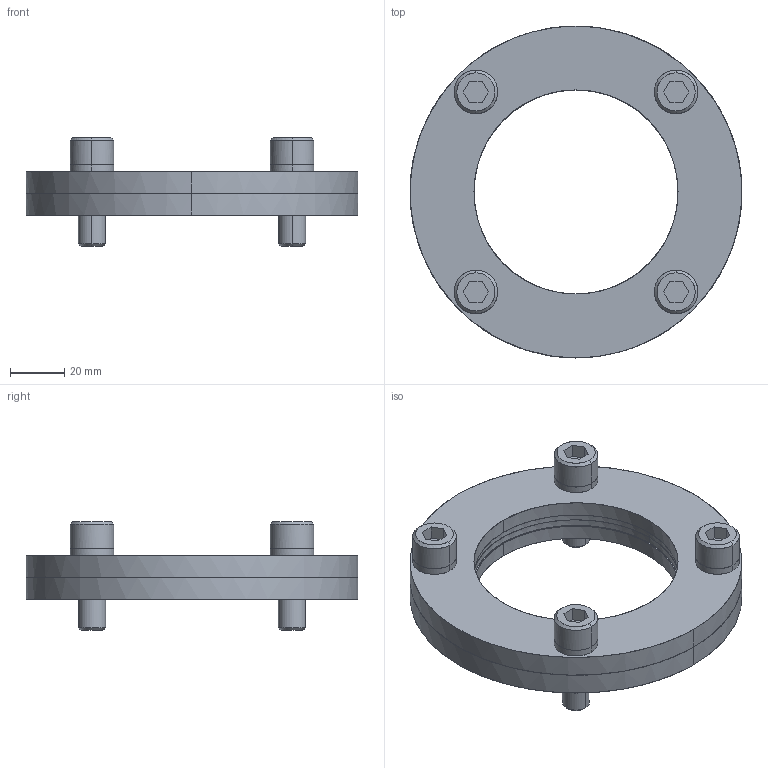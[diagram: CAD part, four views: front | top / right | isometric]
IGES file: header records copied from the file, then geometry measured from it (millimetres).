
Global section: file name: E:\UnigraphicsGraphicData\MISUMI_PRESS-PARTS\IGES\3d_kf75_04242_r00.igs; native system: NX V5.0; preprocessor: UGS NX IGES V5.0; author: MISUMI; date: 20110105.161128; units: millimetre
Bounding box: 122 x 122 x 40 mm (x, y, z)
Surface area: 49224.8 mm2 (no closed solid volume)
Topology: 0 solids, 0 shells, 130 faces, 1024 edges, 1024 vertices
Faces by surface type: bspline 130
